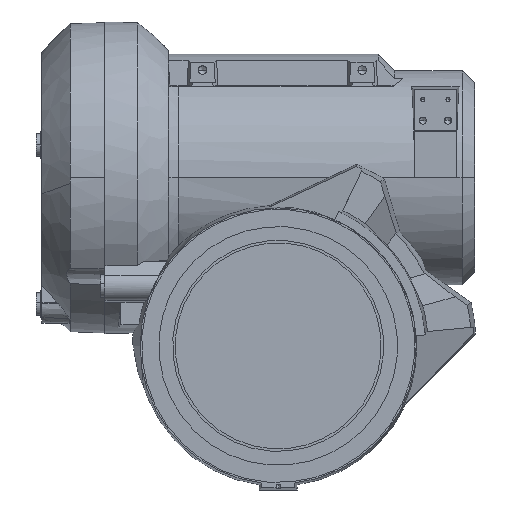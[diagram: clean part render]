
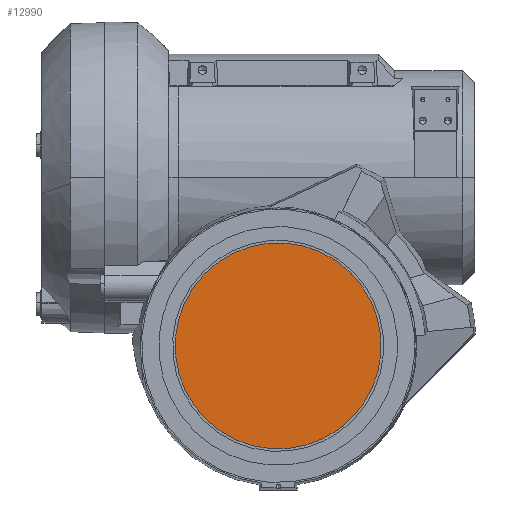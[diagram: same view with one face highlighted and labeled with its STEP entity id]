
A CAD part, front view. The second image highlights one B-rep face of the part: STEP entity #12990.
In plain terms, the highlighted planar face has unit normal (0, -1, 0).
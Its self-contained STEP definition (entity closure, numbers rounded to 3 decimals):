
#3541 = ORIENTED_EDGE ( 'NONE', *, *, #6448, .T. ) ;
#3542 = ORIENTED_EDGE ( 'NONE', *, *, #11388, .T. ) ;
#5134 = DIRECTION ( 'NONE',  ( -0.995, 0., -0.098 ) ) ;
#5135 = DIRECTION ( 'NONE',  ( 0., 1., 0. ) ) ;
#5137 = PLANE ( 'NONE',  #24472 ) ;
#5145 = CARTESIAN_POINT ( 'NONE',  ( 307.993, -284., 2181.91 ) ) ;
#6448 = EDGE_CURVE ( 'NONE', #18784, #19276, #15040, .T. ) ;
#10806 = CARTESIAN_POINT ( 'NONE',  ( 441.91, -284., 2072.007 ) ) ;
#11388 = EDGE_CURVE ( 'NONE', #19276, #18784, #13580, .T. ) ;
#12232 = FACE_OUTER_BOUND ( 'NONE', #17802, .T. ) ;
#12990 = ADVANCED_FACE ( 'NONE', ( #12232 ), #5137, .F. ) ;
#13580 = CIRCLE ( 'NONE', #21463, 122.5 ) ;
#15040 = CIRCLE ( 'NONE', #21416, 122.5 ) ;
#16814 = DIRECTION ( 'NONE',  ( 0.995, 0., 0.098 ) ) ;
#16821 = DIRECTION ( 'NONE',  ( 0., -1., 0. ) ) ;
#16833 = CARTESIAN_POINT ( 'NONE',  ( 320., -284., 2060. ) ) ;
#17802 = EDGE_LOOP ( 'NONE', ( #3542, #3541 ) ) ;
#18784 = VERTEX_POINT ( 'NONE', #19655 ) ;
#19276 = VERTEX_POINT ( 'NONE', #10806 ) ;
#19655 = CARTESIAN_POINT ( 'NONE',  ( 198.09, -284., 2047.993 ) ) ;
#21416 = AXIS2_PLACEMENT_3D ( 'NONE', #24414, #24413, #24412 ) ;
#21463 = AXIS2_PLACEMENT_3D ( 'NONE', #16833, #16821, #16814 ) ;
#24412 = DIRECTION ( 'NONE',  ( 0.995, 0., 0.098 ) ) ;
#24413 = DIRECTION ( 'NONE',  ( 0., -1., 0. ) ) ;
#24414 = CARTESIAN_POINT ( 'NONE',  ( 320., -284., 2060. ) ) ;
#24472 = AXIS2_PLACEMENT_3D ( 'NONE', #5145, #5135, #5134 ) ;
